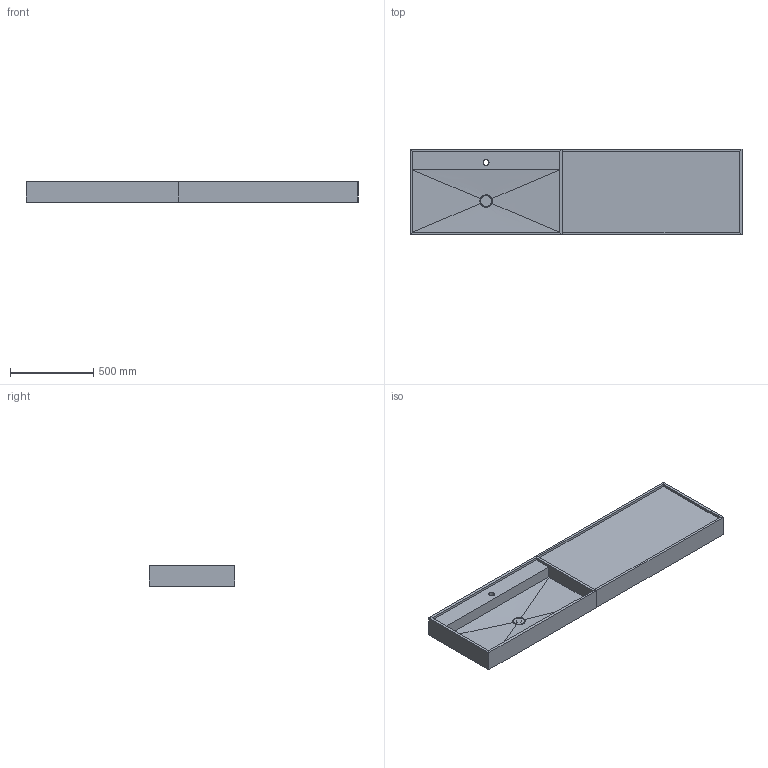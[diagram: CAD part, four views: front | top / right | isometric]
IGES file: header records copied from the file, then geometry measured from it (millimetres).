
Start section: Data from Parasolid IGES Translator 22.0.50, Copyright(c) 2006 Siemens P LM Software. All Rights Reserved.
Global section: file name: noorth-top-H 12,5 D 51,2 W 91,2_5360.igs; native system: By Siemens PLM Incorporated; preprocessor: XPlus GENERIC/IGES 22.0.50; author: Noname; organization: Noname; date: 20251109.152411; units: metre
Bounding box: 1994 x 513 x 127 mm (x, y, z)
Volume: 41533953.8 mm3; surface area: 5330231.8 mm2
Topology: 22 solids, 22 shells, 207 faces, 476 edges, 327 vertices
Faces by surface type: bspline 141, plane 56, cylinder 10
